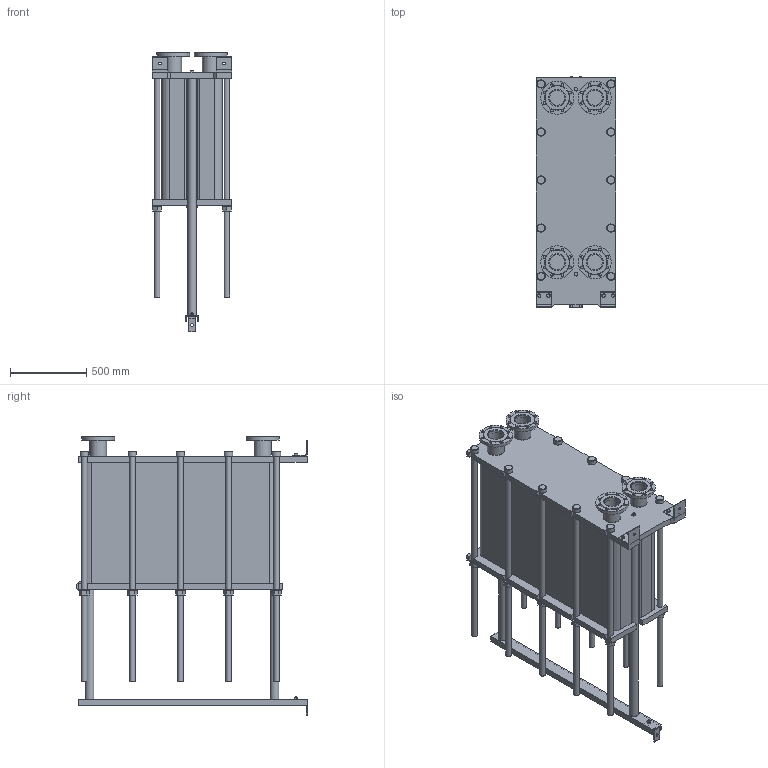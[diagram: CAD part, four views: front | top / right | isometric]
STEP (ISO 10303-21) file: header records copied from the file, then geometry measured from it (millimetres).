
FILE_DESCRIPTION(/* description */ (''),/* implementation_level */ '2;1');
FILE_NAME(/* name */ 'C:\Users\zhuro\Desktop\ENCO\TO\ЭН-04\ЭН-0,5-04-230-1.stp',/* time_stamp */ '2022-06-06T11:05:40+03:00',/* author */ ('zhuro'),/* organization */ (''),/* preprocessor_version */ 'ST-DEVELOPER v18.1',/* originating_system */ 'Autodesk Inventor 2022',/* authorisation */ '');
FILE_SCHEMA (('AUTOMOTIVE_DESIGN { 1 0 10303 214 3 1 1 }'));
Length unit declared in the file: millimetre
Products named in the file (1): ЭН-0,5-04-230-1
Bounding box: 520 x 1510 x 1830 mm (x, y, z)
Volume: 474760396 mm3; surface area: 11213974.2 mm2
Topology: 45 solids, 45 shells, 668 faces, 1611 edges, 1048 vertices
Faces by surface type: plane 457, cylinder 166, cone 39, torus 6
Full cylindrical faces by diameter (mm): 8 x4, 10 x2, 16 x8, 18 x35, 36 x25, 40 x2, 42 x1, 45 x4, 54 x10, 57 x2, 60 x10, 68 x2, 100 x4, 110 x8, 215 x4
Entity records: 23607 total; most frequent: CARTESIAN_POINT 7348, DIRECTION 3371, ORIENTED_EDGE 3142, EDGE_CURVE 1571, AXIS2_PLACEMENT_3D 1199, VERTEX_POINT 1044, LINE 973, VECTOR 973
